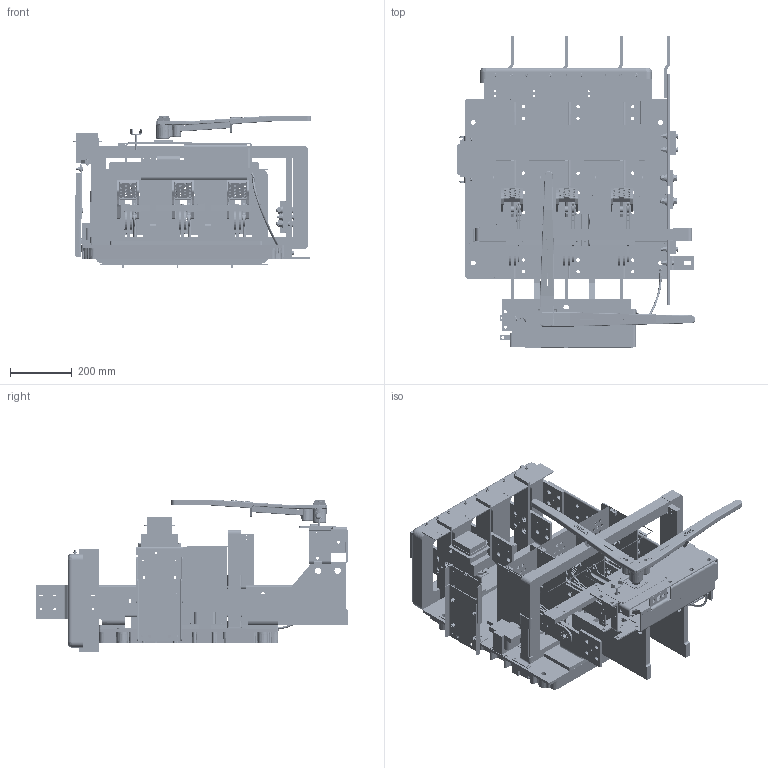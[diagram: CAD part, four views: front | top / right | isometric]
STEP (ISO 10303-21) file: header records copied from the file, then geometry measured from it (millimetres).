
FILE_DESCRIPTION(/* description */ (''),/* implementation_level */ '2;1');
FILE_NAME(/* name */ 'H:\switches\3d-templates\catalog-switches-iges-files\CATALOG-VLB349AG60.stp',/* time_stamp */ '2022-03-15T16:08:46-05:00',/* author */ ('MKingston'),/* organization */ (''),/* preprocessor_version */ 'ST-DEVELOPER v18.1',/* originating_system */ 'Autodesk Inventor 2022',/* authorisation */ '');
FILE_SCHEMA (('AUTOMOTIVE_DESIGN { 1 0 10303 214 3 1 1 }'));
Products named in the file (104): CATALOG-VLB349; 277-bf; 668-CB; 668-DB; 256-d; 256-c; vlb-interpole-right-side-assy; vlb-interpole-assy; 256-b; 178-b; 178-c; catalog-56-qj-arcchute-assy; 363-da; 363-da_MIR; 50-QLX; 50-QRX; 56-QJS; 57-QJSB; 57-QJST; catalog-vl369-blade-assy; 67-AL; 67-AR; 67-fc3; 67-gc3; 67-M; 67-j; ANSI/ASME B18.7 - T 0.252 x 17/32; ANSI/ASME B18.7 - T 0.188 x 17/32; 668-EB; 235-b; 230-a; 246-f; 1600-VLB-NEUTRAL; 677-c; 676-t; 675-ca; 675-a; 675-df; 678-r; Bolted Connection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
Assembly tree (216 placements, depth 4):
  CATALOG-VLB349
    277-bf
    668-CB  x3
    668-DB  x3
    256-d
    256-c
    vlb-interpole-right-side-assy  x2
      256-b
      178-b
      178-c
    vlb-interpole-assy  x2
      256-b
      178-b
      178-c
    catalog-56-qj-arcchute-assy  x3
      363-da
      363-da_MIR
      50-QLX
      50-QRX
      56-QJS
      57-QJSB
      57-QJST
    catalog-vl369-blade-assy  x3
      67-AL
      67-AR
      67-fc3
      67-gc3
      67-j
      67-M
      ANSI/ASME B18.7 - T 0.252 x 17/32
      ANSI/ASME B18.7 - T 0.188 x 17/32
    668-EB  x3
    235-b
    230-a
    246-f  x2
    1600-VLB-NEUTRAL
      677-c
      676-t  x2
      675-ca
      675-a
      675-df  x2
      678-r
      Bolted Connection
        ASTM F436 - 1/2, CW  x8
        ANSI B18.2.1 - 1/2-13 UNC - 1.75, HCSI  x4
        ASME B18.21.1 - 1/2, RHSLW  x4
        AS 2465 - 1/2  UNC  x4
      Bolted Connection_1
        ANSI B18.3 - 3/8-16 UNC x 1.75, HSFCHCSI
        ANSI B18.22.1 - 3/8 - Regular - Type B
        ANSI B18.21.1 - 0.375
        ANSI B18.2.2 - 3/8 - 16, HNI
      Bolted Connection_2
        ASTM F436 - 3/8, CW  x3
        ANSI B18.2.1 - 3/8-16 UNC - 2, HCSI  x3
        ANSI B18.22.1 - 3/8 - narrow - Type A  x3
        ANSI B18.21.1 - 0.375  x3
        ANSI B18.2.2 - 3/8 - 16, HNI  x3
      Bolted Connection_3
        ASTM F436 - 3/8, CW
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Bounding box: 775.46 x 1013.88 x 497.01 mm (x, y, z)
Volume: 31089165.4 mm3; surface area: 6024737.8 mm2
Topology: 275 solids, 277 shells, 8110 faces, 20528 edges, 13303 vertices
Faces by surface type: plane 4181, cylinder 2346, cone 925, bspline 466, torus 170, sphere 22
Full cylindrical faces by diameter (mm): 1.702 x8, 3.175 x4, 3.302 x2, 3.581 x2, 3.683 x8, 3.759 x12, 3.81 x9, 3.962 x11, 4.089 x4, 4.166 x2, 4.191 x9, 4.293 x9, 4.305 x42, 4.366 x2, 4.496 x24, 4.572 x9, 4.653 x4, 4.762 x4, 4.775 x11, 4.801 x8, 4.826 x2, 4.902 x14, 4.915 x24, 4.953 x4, 4.978 x9, 5.08 x2, 5.462 x4, 5.537 x5, 5.556 x5, 5.563 x4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
Entity records: 143645 total; most frequent: CARTESIAN_POINT 35504, DIRECTION 21725, ORIENTED_EDGE 21430, EDGE_CURVE 10726, AXIS2_PLACEMENT_3D 7711, VERTEX_POINT 6957, LINE 6303, VECTOR 6303
